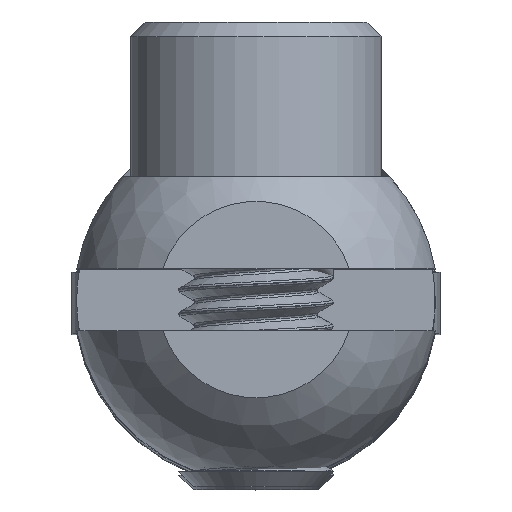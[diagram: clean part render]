
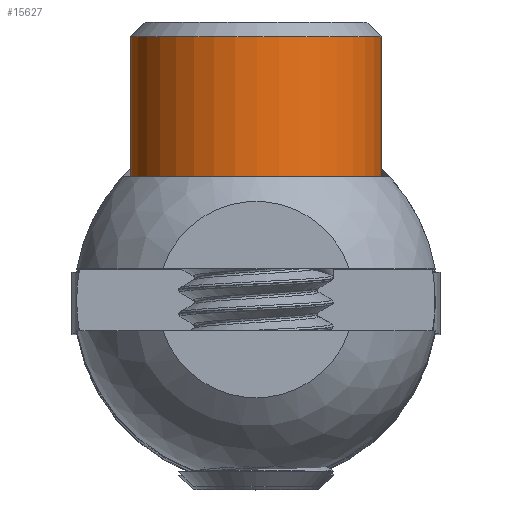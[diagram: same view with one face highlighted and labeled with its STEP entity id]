
A CAD part, top view. The second image highlights one B-rep face of the part: STEP entity #15627.
In plain terms, the highlighted cylindrical face has radius 6.5 mm (diameter 13 mm), a full revolution.
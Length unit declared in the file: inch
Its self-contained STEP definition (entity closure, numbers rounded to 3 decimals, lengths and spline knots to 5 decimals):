
#2603=FACE_OUTER_BOUND('',#3542,.T.);
#3542=EDGE_LOOP('',(#14517,#14518,#14519,#14520));
#4651=LINE('',#34595,#5755);
#5755=VECTOR('',#19649,0.25591);
#6161=CIRCLE('',#16695,0.25591);
#6163=CIRCLE('',#16698,0.25591);
#7664=VERTEX_POINT('',#34588);
#7666=VERTEX_POINT('',#34594);
#9958=EDGE_CURVE('',#7664,#7664,#6161,.T.);
#9961=EDGE_CURVE('',#7664,#7666,#4651,.T.);
#9962=EDGE_CURVE('',#7666,#7666,#6163,.T.);
#14517=ORIENTED_EDGE('',*,*,#9958,.F.);
#14518=ORIENTED_EDGE('',*,*,#9961,.T.);
#14519=ORIENTED_EDGE('',*,*,#9962,.F.);
#14520=ORIENTED_EDGE('',*,*,#9961,.F.);
#14789=CYLINDRICAL_SURFACE('',#16697,0.25591);
#15627=ADVANCED_FACE('',(#2603),#14789,.T.);
#16695=AXIS2_PLACEMENT_3D('',#34589,#19642,#19643);
#16697=AXIS2_PLACEMENT_3D('',#34593,#19647,#19648);
#16698=AXIS2_PLACEMENT_3D('',#34596,#19650,#19651);
#19642=DIRECTION('center_axis',(0.,0.,1.));
#19643=DIRECTION('ref_axis',(-1.,0.,0.));
#19647=DIRECTION('center_axis',(0.,0.,1.));
#19648=DIRECTION('ref_axis',(-1.,0.,0.));
#19649=DIRECTION('',(0.,0.,-1.));
#19650=DIRECTION('center_axis',(0.,0.,-1.));
#19651=DIRECTION('ref_axis',(-1.,0.,0.));
#34588=CARTESIAN_POINT('',(0.25591,0.,0.28496));
#34589=CARTESIAN_POINT('Origin',(0.,0.,0.28496));
#34593=CARTESIAN_POINT('Origin',(0.,0.,0.));
#34594=CARTESIAN_POINT('',(0.25591,0.,0.));
#34595=CARTESIAN_POINT('',(0.25591,0.,0.));
#34596=CARTESIAN_POINT('Origin',(0.,0.,0.));
